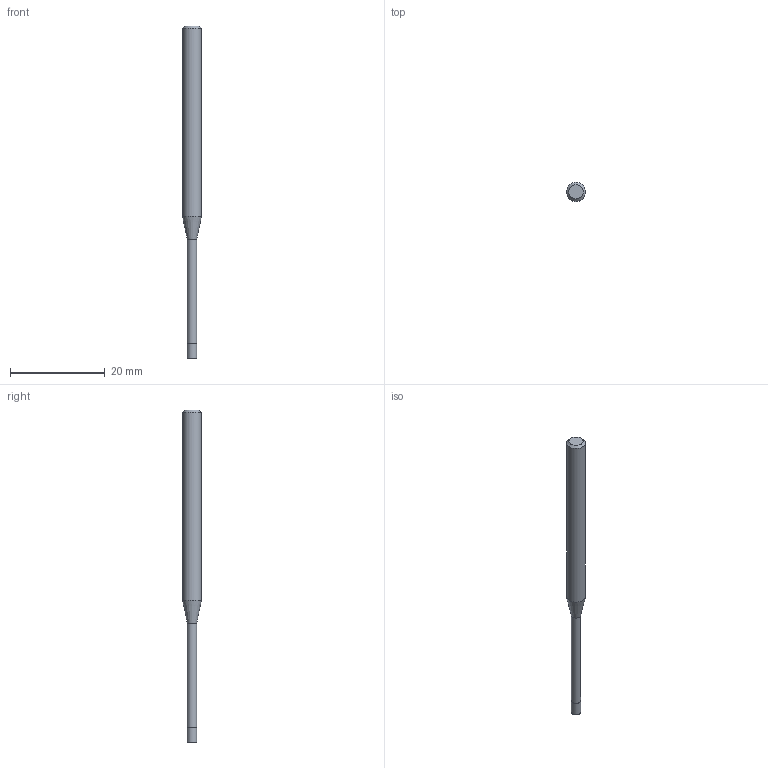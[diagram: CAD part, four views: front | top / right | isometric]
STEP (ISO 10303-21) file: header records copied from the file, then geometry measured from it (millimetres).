
FILE_DESCRIPTION((''),'2;1');
FILE_NAME('C:\Users\nsx150\AppData\Local\Temp\Mastercam 2021\17T8Q8S9EB\TEMP.step','2021-04-21T14:27:49',(''),(''),'STEP Write','Mastercam 2021 ... CNC Software, Inc.','');
FILE_SCHEMA(('AUTOMOTIVE_DESIGN'));
Length unit declared in the file: millimetre
Products named in the file (1): None
Bounding box: 4 x 4 x 70 mm (x, y, z)
Volume: 612.5 mm3; surface area: 721.5 mm2
Topology: 2 solids, 2 shells, 9 faces, 12 edges, 7 vertices
Faces by surface type: plane 4, cylinder 3, cone 2
Full cylindrical faces by diameter (mm): 1.94 x1, 2 x1, 4 x1
Entity records: 211 total; most frequent: DIRECTION 36, CARTESIAN_POINT 25, AXIS2_PLACEMENT_3D 18, ORIENTED_EDGE 14, EDGE_LOOP 14, STYLED_ITEM 12, ADVANCED_FACE 9, FACE_BOUND 8
